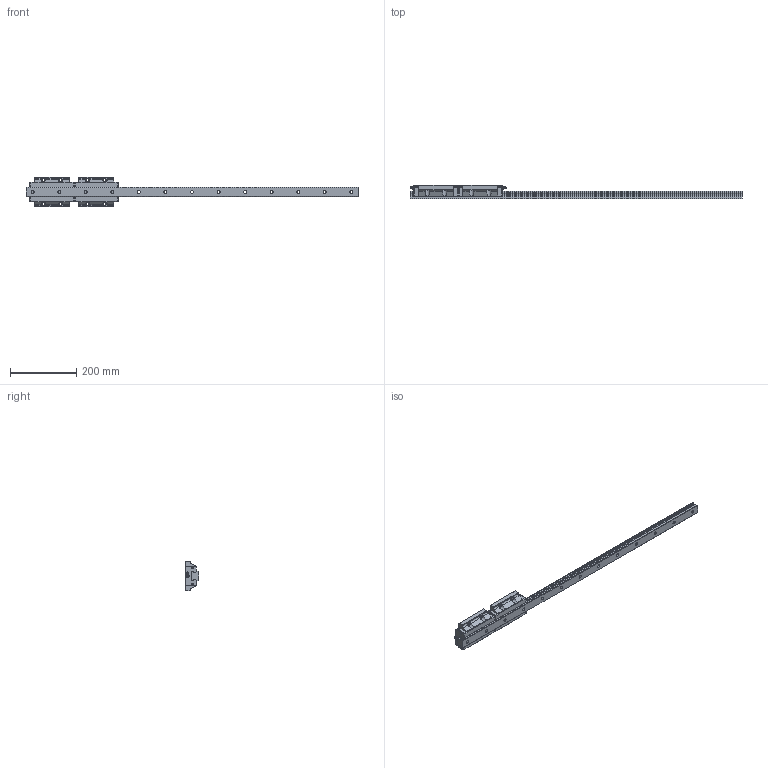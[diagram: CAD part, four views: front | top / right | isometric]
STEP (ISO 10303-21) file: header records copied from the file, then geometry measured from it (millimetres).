
FILE_DESCRIPTION( ( 'STEP AP203' ), '1' );
FILE_NAME( 'p:/temp/worker_964/temp/exporttempdir_3732_256_tiR6Y/format_0/SME30LEA2SSF0+R1000-20_20N_(0_145_0_01G-M6).stp', '2020-07-22T14:11:08', ( 'License CC BY-ND 4.0' ), ( 'CADENAS' ), ' ', 'PARTsolutions', ' ' );
FILE_SCHEMA( ( 'CONFIG_CONTROL_DESIGN' ) );
Length unit declared in the file: millimetre
Products named in the file (5): SME30LEA2SSF0+R1000-20/20N_(0_145_0_01G-M6); _SME30EA1000-20/20N (2SSFCR1G-M6); _SME30LEASSF0N; _SME-ES30; _G-M6
Assembly tree (9 placements, depth 2):
  SME30LEA2SSF0+R1000-20/20N_(0_145_0_01G-M6)
    _SME30EA1000-20/20N (2SSFCR1G-M6)
    _SME30LEASSF0N  x2
    _SME-ES30  x4
    _G-M6  x2
Bounding box: 1000 x 42 x 90 mm (x, y, z)
Volume: 1098875.6 mm3; surface area: 211386.1 mm2
Topology: 9 solids, 9 shells, 655 faces, 1690 edges, 1096 vertices
Faces by surface type: plane 397, cylinder 174, cone 76, sphere 4, torus 2, bspline 2
Full cylindrical faces by diameter (mm): 4.917 x8, 5.5 x8, 6 x2, 6.5 x12, 8 x2, 8.376 x8, 9 x13, 10.2 x4, 14 x13
Entity records: 9167 total; most frequent: CARTESIAN_POINT 1698, DIRECTION 1516, ORIENTED_EDGE 1412, EDGE_CURVE 706, AXIS2_PLACEMENT_3D 543, VERTEX_POINT 497, LINE 430, VECTOR 430
